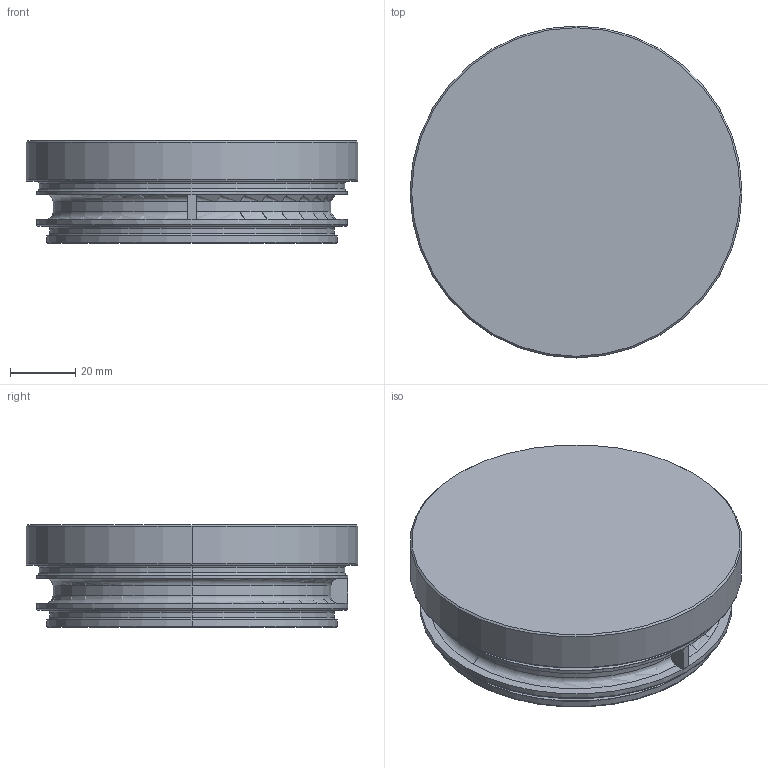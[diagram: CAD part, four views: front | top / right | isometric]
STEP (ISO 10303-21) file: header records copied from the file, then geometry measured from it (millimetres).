
FILE_DESCRIPTION((''),'2;1');
FILE_NAME('RMC-6081','2007-09-24T',('glafferty'),('Pleasant Precision, Inc. (419)675-0556'),'PRO/ENGINEER BY PARAMETRIC TECHNOLOGY CORPORATION, 2006080','PRO/ENGINEER BY PARAMETRIC TECHNOLOGY CORPORATION, 2006080','');
FILE_SCHEMA(('CONFIG_CONTROL_DESIGN'));
Length unit declared in the file: inch
Products named in the file (1): RMC-6081
Bounding box: 101.6 x 101.6 x 31.5 mm (x, y, z)
Volume: 220001.1 mm3; surface area: 28337.5 mm2
Topology: 1 solids, 1 shells, 48 faces, 104 edges, 60 vertices
Faces by surface type: torus 18, plane 14, cylinder 14, cone 2
Entity records: 1404 total; most frequent: CARTESIAN_POINT 274, DIRECTION 262, ORIENTED_EDGE 208, AXIS2_PLACEMENT_3D 118, EDGE_CURVE 104, CIRCLE 70, VERTEX_POINT 60, EDGE_LOOP 52
